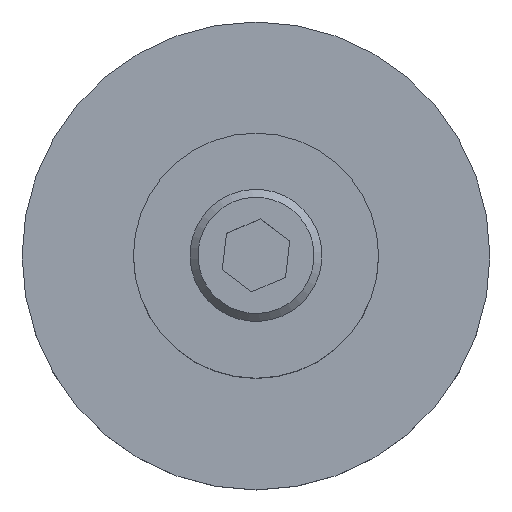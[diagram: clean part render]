
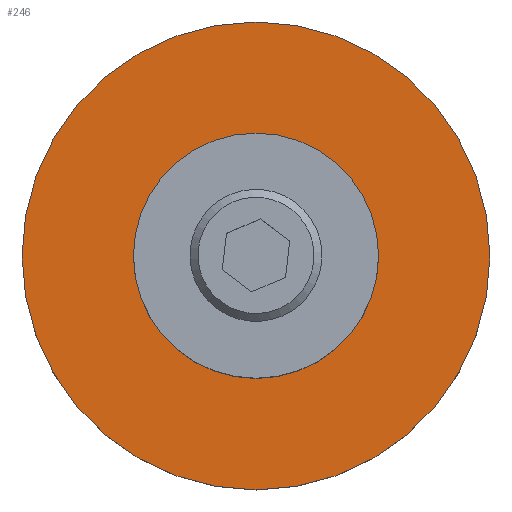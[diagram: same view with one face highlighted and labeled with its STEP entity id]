
A CAD part, top view. The second image highlights one B-rep face of the part: STEP entity #246.
In plain terms, the highlighted planar face has unit normal (0, 0, 1).
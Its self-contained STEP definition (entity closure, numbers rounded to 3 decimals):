
#246=ADVANCED_FACE('',(#364,#365),#366,.F.);
#364=FACE_OUTER_BOUND('',#459,.T.);
#365=FACE_BOUND('',#460,.T.);
#366=PLANE('',#461);
#459=EDGE_LOOP('',(#608));
#460=EDGE_LOOP('',(#609));
#461=AXIS2_PLACEMENT_3D('',#610,#611,#612);
#608=ORIENTED_EDGE('',*,*,#676,.F.);
#609=ORIENTED_EDGE('',*,*,#671,.T.);
#610=CARTESIAN_POINT('',(5.6,0.0,12.7));
#611=DIRECTION('',(0.0,0.0,-1.0));
#612=DIRECTION('',(-1.0,0.0,0.0));
#671=EDGE_CURVE('',#746,#746,#747,.T.);
#676=EDGE_CURVE('',#754,#754,#755,.T.);
#746=VERTEX_POINT('',#844);
#747=CIRCLE('',#845,3.85);
#754=VERTEX_POINT('',#852);
#755=CIRCLE('',#853,7.35);
#844=CARTESIAN_POINT('',(-3.85,0.0,12.7));
#845=AXIS2_PLACEMENT_3D('',#903,#904,#905);
#852=CARTESIAN_POINT('',(-7.35,0.0,12.7));
#853=AXIS2_PLACEMENT_3D('',#912,#913,#914);
#903=CARTESIAN_POINT('',(0.0,0.0,12.7));
#904=DIRECTION('',(0.0,0.0,-1.0));
#905=DIRECTION('',(-1.0,0.0,0.0));
#912=CARTESIAN_POINT('',(0.0,0.0,12.7));
#913=DIRECTION('',(0.0,0.0,-1.0));
#914=DIRECTION('',(-1.0,0.0,0.0));
